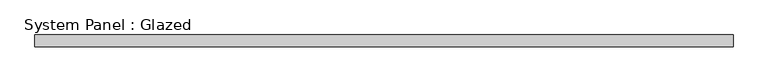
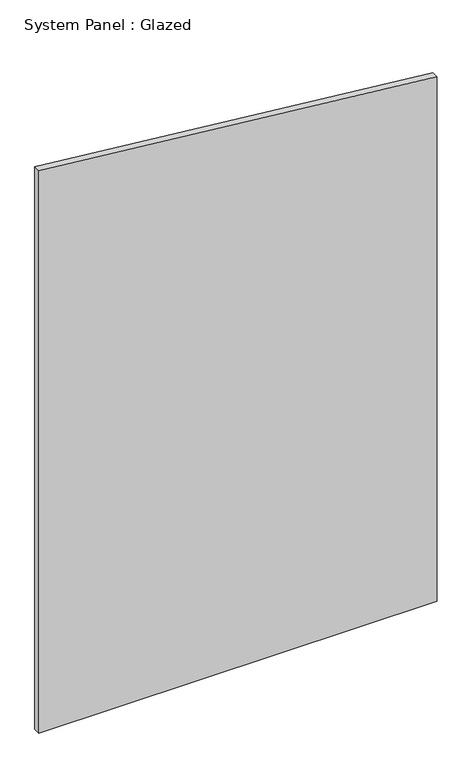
"""IFC4 building model written with IfcOpenShell, lengths in millimetres: plate geometry, System Panel : Glazed."""

from ifc_helpers import new_model, si_unit, frame, origin, place, context, project, spatial, polyline, outline, extrude, source, transform, mapped, element, save


def system_panel_glazed_b488f96b(model_context):
    return source(origin(), model_context, "Body", "SweptSolid", [
        extrude(outline(polyline([(0.0, -735.8695652), (0.0, 735.8695652), (2047.6802407, 735.8695652), (2195.6632195, -735.8695652), (0.0, -735.8695652)])), frame((0.0, 24.5, 0.0), z_axis=(0.0, 1.0, 0.0), x_axis=(0.0, 0.0, 1.0)), (0.0, 0.0, 1.0), 25.0),
    ])


if __name__ == "__main__":
    model = new_model("IFC4")
    model_context = context("Model", 3, world=origin())
    ifc_project = project(units=[si_unit("LENGTHUNIT", "METRE", prefix="MILLI")], contexts=[model_context])
    site = spatial("IfcSite", under=ifc_project)
    building = spatial("IfcBuilding", under=site)
    placement = place(None, origin())
    system_panel_glazed_shape = system_panel_glazed_b488f96b(model_context)
    element("IfcPlate", 1, ObjectType="System Panel : Glazed", at=placement, inside=building, context=model_context, shape_type="MappedRepresentation", body=[
        mapped(system_panel_glazed_shape, transform((0.0, 0.0, 0.0), x_axis=(1.0, 0.0, 0.0), y_axis=(0.0, 1.0, 0.0), z_axis=(0.0, 0.0, 1.0))),
    ])
    save(model, "model.ifc")
